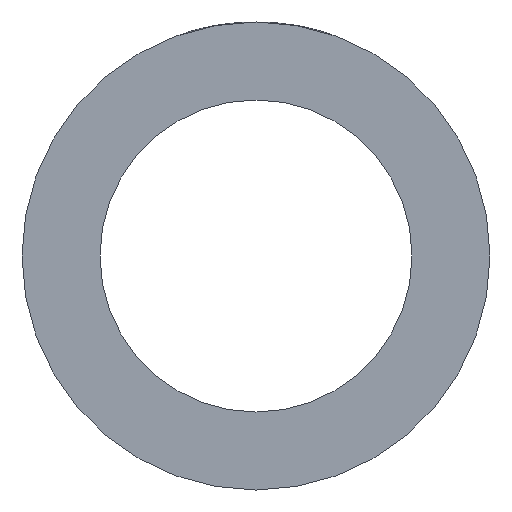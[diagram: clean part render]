
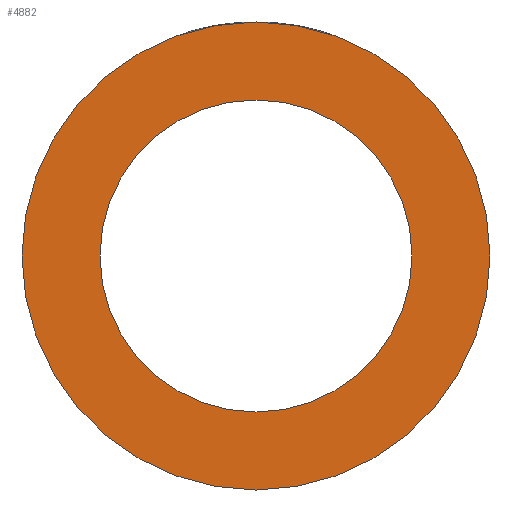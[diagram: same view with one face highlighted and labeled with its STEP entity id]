
A CAD part, left-side view. The second image highlights one B-rep face of the part: STEP entity #4882.
In plain terms, the highlighted planar face has unit normal (-1, 0, 0).
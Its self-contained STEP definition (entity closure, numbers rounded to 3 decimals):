
#117=PLANE('',#5260);
#333=CIRCLE('',#5259,22.5);
#334=CIRCLE('',#5261,15.);
#1439=ORIENTED_EDGE('',*,*,#2911,.T.);
#1440=ORIENTED_EDGE('',*,*,#2910,.F.);
#2910=EDGE_CURVE('',#3646,#3646,#333,.T.);
#2911=EDGE_CURVE('',#3647,#3647,#334,.T.);
#3646=VERTEX_POINT('',#7717);
#3647=VERTEX_POINT('',#7720);
#4152=EDGE_LOOP('',(#1439));
#4153=EDGE_LOOP('',(#1440));
#4511=FACE_BOUND('',#4152,.T.);
#4512=FACE_BOUND('',#4153,.T.);
#4882=ADVANCED_FACE('',(#4511,#4512),#117,.F.);
#5259=AXIS2_PLACEMENT_3D('',#7716,#5748,#5749);
#5260=AXIS2_PLACEMENT_3D('',#7718,#5750,#5751);
#5261=AXIS2_PLACEMENT_3D('',#7719,#5752,#5753);
#5748=DIRECTION('',(1.,0.,0.));
#5749=DIRECTION('',(0.,0.,-1.));
#5750=DIRECTION('',(1.,0.,0.));
#5751=DIRECTION('',(0.,0.,-1.));
#5752=DIRECTION('',(1.,0.,0.));
#5753=DIRECTION('',(0.,0.,-1.));
#7716=CARTESIAN_POINT('',(-32.,0.,0.));
#7717=CARTESIAN_POINT('',(-32.,0.,-22.5));
#7718=CARTESIAN_POINT('',(-32.,0.,0.));
#7719=CARTESIAN_POINT('',(-32.,0.,0.));
#7720=CARTESIAN_POINT('',(-32.,0.,-15.));
